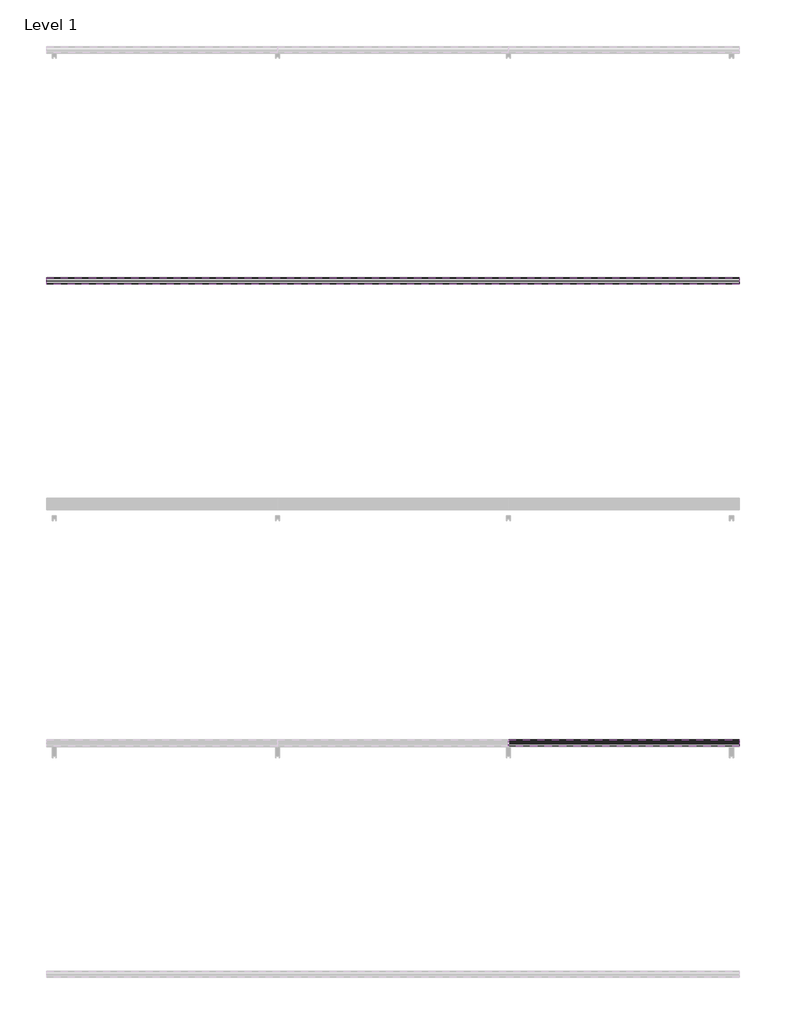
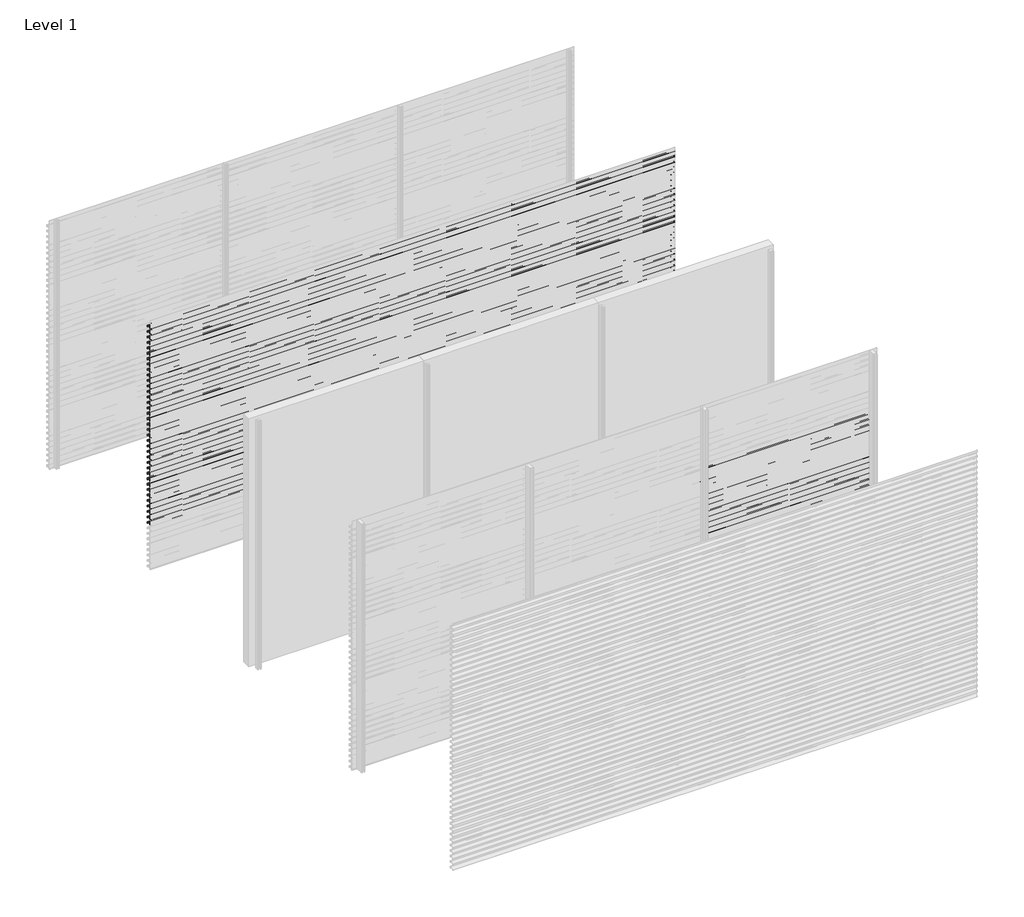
# One storey, part 20 of 27: 71 proxies.
"""IFC4 building model written with IfcOpenShell, lengths in millimetres."""

from ifc_helpers import new_model, si_unit, frame, origin, place, context, project, spatial, polyline, outline, extrude, element, save

model = new_model("IFC4")

# Units and contexts
model_context = context("Model", 3, world=origin())
ifc_project = project(units=[si_unit("LENGTHUNIT", "METRE", prefix="MILLI")], contexts=[model_context])

# Site, building, storey
site = spatial("IfcSite", under=ifc_project)
building = spatial("IfcBuilding", under=site)
storey = spatial("IfcBuildingStorey", under=building, Name="Level 1", Elevation=0.0)

# Proxies
placement = place(None, origin())
element("IfcBuildingElementProxy", 1, Name="Wall Sweeps", at=placement, inside=storey, context=model_context, shape_type="SweptSolid", body=[
    extrude(outline(polyline([(-13943.0, 2913.2), (-13943.0, 2893.5), (-13944.25, 2894.5866084), (-13944.25, 2912.4872415), (-13963.0322086, 2925.6010889), (-13995.1332975, 2893.5), (-13996.0525363, 2894.4192388), (-13964.1148087, 2926.3569665), (-13998.0, 2950.0158044), (-13998.0, 2970.0), (-13996.75, 2970.0), (-13996.75, 2950.7285629), (-13943.0, 2913.2)])), frame((0.0, 0.0, 0.0), z_axis=(1.0, 0.0, 0.0), x_axis=(0.0, 1.0, 0.0)), (0.0, 0.0, 1.0), 6000.0),
])
element("IfcBuildingElementProxy", 2, Name="Wall Sweeps", at=placement, inside=storey, context=model_context, shape_type="SweptSolid", body=[
    extrude(outline(polyline([(-13943.0, 2847.2), (-13943.0, 2827.5), (-13944.25, 2828.5866084), (-13944.25, 2846.4872415), (-13963.0322086, 2859.6010889), (-13995.1332975, 2827.5), (-13996.0525363, 2828.4192388), (-13964.1148087, 2860.3569665), (-13998.0, 2884.0158044), (-13998.0, 2904.0), (-13996.75, 2904.0), (-13996.75, 2884.7285629), (-13943.0, 2847.2)])), frame((0.0, 0.0, 0.0), z_axis=(1.0, 0.0, 0.0), x_axis=(0.0, 1.0, 0.0)), (0.0, 0.0, 1.0), 6000.0),
])
element("IfcBuildingElementProxy", 3, Name="Wall Sweeps", at=placement, inside=storey, context=model_context, shape_type="SweptSolid", body=[
    extrude(outline(polyline([(-13943.0, 2781.2), (-13943.0, 2761.5), (-13944.25, 2762.5866084), (-13944.25, 2780.4872415), (-13963.0322086, 2793.6010889), (-13995.1332975, 2761.5), (-13996.0525363, 2762.4192388), (-13964.1148087, 2794.3569665), (-13998.0, 2818.0158044), (-13998.0, 2838.0), (-13996.75, 2838.0), (-13996.75, 2818.7285629), (-13943.0, 2781.2)])), frame((0.0, 0.0, 0.0), z_axis=(1.0, 0.0, 0.0), x_axis=(0.0, 1.0, 0.0)), (0.0, 0.0, 1.0), 6000.0),
])
element("IfcBuildingElementProxy", 4, Name="Wall Sweeps", at=placement, inside=storey, context=model_context, shape_type="SweptSolid", body=[
    extrude(outline(polyline([(-13943.0, 2715.2), (-13943.0, 2695.5), (-13944.25, 2696.5866084), (-13944.25, 2714.4872415), (-13963.0322086, 2727.6010889), (-13995.1332975, 2695.5), (-13996.0525363, 2696.4192388), (-13964.1148087, 2728.3569665), (-13998.0, 2752.0158044), (-13998.0, 2772.0), (-13996.75, 2772.0), (-13996.75, 2752.7285629), (-13943.0, 2715.2)])), frame((0.0, 0.0, 0.0), z_axis=(1.0, 0.0, 0.0), x_axis=(0.0, 1.0, 0.0)), (0.0, 0.0, 1.0), 6000.0),
])
element("IfcBuildingElementProxy", 5, Name="Wall Sweeps", at=placement, inside=storey, context=model_context, shape_type="SweptSolid", body=[
    extrude(outline(polyline([(-13943.0, 2649.2), (-13943.0, 2629.5), (-13944.25, 2630.5866084), (-13944.25, 2648.4872415), (-13963.0322086, 2661.6010889), (-13995.1332975, 2629.5), (-13996.0525363, 2630.4192388), (-13964.1148087, 2662.3569665), (-13998.0, 2686.0158044), (-13998.0, 2706.0), (-13996.75, 2706.0), (-13996.75, 2686.7285629), (-13943.0, 2649.2)])), frame((0.0, 0.0, 0.0), z_axis=(1.0, 0.0, 0.0), x_axis=(0.0, 1.0, 0.0)), (0.0, 0.0, 1.0), 6000.0),
])
element("IfcBuildingElementProxy", 6, Name="Wall Sweeps", at=placement, inside=storey, context=model_context, shape_type="SweptSolid", body=[
    extrude(outline(polyline([(-13943.0, 2583.2), (-13943.0, 2563.5), (-13944.25, 2564.5866084), (-13944.25, 2582.4872415), (-13963.0322086, 2595.6010889), (-13995.1332975, 2563.5), (-13996.0525363, 2564.4192388), (-13964.1148087, 2596.3569665), (-13998.0, 2620.0158044), (-13998.0, 2640.0), (-13996.75, 2640.0), (-13996.75, 2620.7285629), (-13943.0, 2583.2)])), frame((0.0, 0.0, 0.0), z_axis=(1.0, 0.0, 0.0), x_axis=(0.0, 1.0, 0.0)), (0.0, 0.0, 1.0), 6000.0),
])
element("IfcBuildingElementProxy", 7, Name="Wall Sweeps", at=placement, inside=storey, context=model_context, shape_type="SweptSolid", body=[
    extrude(outline(polyline([(-13943.0, 2517.2), (-13943.0, 2497.5), (-13944.25, 2498.5866084), (-13944.25, 2516.4872415), (-13963.0322086, 2529.6010889), (-13995.1332975, 2497.5), (-13996.0525363, 2498.4192388), (-13964.1148087, 2530.3569665), (-13998.0, 2554.0158044), (-13998.0, 2574.0), (-13996.75, 2574.0), (-13996.75, 2554.7285629), (-13943.0, 2517.2)])), frame((0.0, 0.0, 0.0), z_axis=(1.0, 0.0, 0.0), x_axis=(0.0, 1.0, 0.0)), (0.0, 0.0, 1.0), 6000.0),
])
element("IfcBuildingElementProxy", 8, Name="Wall Sweeps", at=placement, inside=storey, context=model_context, shape_type="SweptSolid", body=[
    extrude(outline(polyline([(-13943.0, 2451.2), (-13943.0, 2431.5), (-13944.25, 2432.5866084), (-13944.25, 2450.4872415), (-13963.0322086, 2463.6010889), (-13995.1332975, 2431.5), (-13996.0525363, 2432.4192388), (-13964.1148087, 2464.3569665), (-13998.0, 2488.0158044), (-13998.0, 2508.0), (-13996.75, 2508.0), (-13996.75, 2488.7285629), (-13943.0, 2451.2)])), frame((0.0, 0.0, 0.0), z_axis=(1.0, 0.0, 0.0), x_axis=(0.0, 1.0, 0.0)), (0.0, 0.0, 1.0), 6000.0),
])
element("IfcBuildingElementProxy", 9, Name="Wall Sweeps", at=placement, inside=storey, context=model_context, shape_type="SweptSolid", body=[
    extrude(outline(polyline([(-13943.0, 2385.2), (-13943.0, 2365.5), (-13944.25, 2366.5866084), (-13944.25, 2384.4872415), (-13963.0322086, 2397.6010889), (-13995.1332975, 2365.5), (-13996.0525363, 2366.4192388), (-13964.1148087, 2398.3569665), (-13998.0, 2422.0158044), (-13998.0, 2442.0), (-13996.75, 2442.0), (-13996.75, 2422.7285629), (-13943.0, 2385.2)])), frame((0.0, 0.0, 0.0), z_axis=(1.0, 0.0, 0.0), x_axis=(0.0, 1.0, 0.0)), (0.0, 0.0, 1.0), 6000.0),
])
element("IfcBuildingElementProxy", 10, Name="Wall Sweeps", at=placement, inside=storey, context=model_context, shape_type="SweptSolid", body=[
    extrude(outline(polyline([(-13943.0, 2319.2), (-13943.0, 2299.5), (-13944.25, 2300.5866084), (-13944.25, 2318.4872415), (-13963.0322086, 2331.6010889), (-13995.1332975, 2299.5), (-13996.0525363, 2300.4192388), (-13964.1148087, 2332.3569665), (-13998.0, 2356.0158044), (-13998.0, 2376.0), (-13996.75, 2376.0), (-13996.75, 2356.7285629), (-13943.0, 2319.2)])), frame((0.0, 0.0, 0.0), z_axis=(1.0, 0.0, 0.0), x_axis=(0.0, 1.0, 0.0)), (0.0, 0.0, 1.0), 6000.0),
])
element("IfcBuildingElementProxy", 11, Name="Wall Sweeps", at=placement, inside=storey, context=model_context, shape_type="SweptSolid", body=[
    extrude(outline(polyline([(-13943.0, 2253.2), (-13943.0, 2233.5), (-13944.25, 2234.5866084), (-13944.25, 2252.4872415), (-13963.0322086, 2265.6010889), (-13995.1332975, 2233.5), (-13996.0525363, 2234.4192388), (-13964.1148087, 2266.3569665), (-13998.0, 2290.0158044), (-13998.0, 2310.0), (-13996.75, 2310.0), (-13996.75, 2290.7285629), (-13943.0, 2253.2)])), frame((0.0, 0.0, 0.0), z_axis=(1.0, 0.0, 0.0), x_axis=(0.0, 1.0, 0.0)), (0.0, 0.0, 1.0), 6000.0),
])
element("IfcBuildingElementProxy", 12, Name="Wall Sweeps", at=placement, inside=storey, context=model_context, shape_type="SweptSolid", body=[
    extrude(outline(polyline([(-13943.0, 2187.2), (-13943.0, 2167.5), (-13944.25, 2168.5866084), (-13944.25, 2186.4872415), (-13963.0322086, 2199.6010889), (-13995.1332975, 2167.5), (-13996.0525363, 2168.4192388), (-13964.1148087, 2200.3569665), (-13998.0, 2224.0158044), (-13998.0, 2244.0), (-13996.75, 2244.0), (-13996.75, 2224.7285629), (-13943.0, 2187.2)])), frame((0.0, 0.0, 0.0), z_axis=(1.0, 0.0, 0.0), x_axis=(0.0, 1.0, 0.0)), (0.0, 0.0, 1.0), 6000.0),
])
element("IfcBuildingElementProxy", 13, Name="Wall Sweeps", at=placement, inside=storey, context=model_context, shape_type="SweptSolid", body=[
    extrude(outline(polyline([(-13943.0, 2121.2), (-13943.0, 2101.5), (-13944.25, 2102.5866084), (-13944.25, 2120.4872415), (-13963.0322086, 2133.6010889), (-13995.1332975, 2101.5), (-13996.0525363, 2102.4192388), (-13964.1148087, 2134.3569665), (-13998.0, 2158.0158044), (-13998.0, 2178.0), (-13996.75, 2178.0), (-13996.75, 2158.7285629), (-13943.0, 2121.2)])), frame((0.0, 0.0, 0.0), z_axis=(1.0, 0.0, 0.0), x_axis=(0.0, 1.0, 0.0)), (0.0, 0.0, 1.0), 6000.0),
])
element("IfcBuildingElementProxy", 14, Name="Wall Sweeps", at=placement, inside=storey, context=model_context, shape_type="SweptSolid", body=[
    extrude(outline(polyline([(-13943.0, 2055.2), (-13943.0, 2035.5), (-13944.25, 2036.5866084), (-13944.25, 2054.4872415), (-13963.0322086, 2067.6010889), (-13995.1332975, 2035.5), (-13996.0525363, 2036.4192388), (-13964.1148087, 2068.3569665), (-13998.0, 2092.0158044), (-13998.0, 2112.0), (-13996.75, 2112.0), (-13996.75, 2092.7285629), (-13943.0, 2055.2)])), frame((0.0, 0.0, 0.0), z_axis=(1.0, 0.0, 0.0), x_axis=(0.0, 1.0, 0.0)), (0.0, 0.0, 1.0), 6000.0),
])
element("IfcBuildingElementProxy", 15, Name="Wall Sweeps", at=placement, inside=storey, context=model_context, shape_type="SweptSolid", body=[
    extrude(outline(polyline([(-13943.0, 1989.2), (-13943.0, 1969.5), (-13944.25, 1970.5866084), (-13944.25, 1988.4872415), (-13963.0322086, 2001.6010889), (-13995.1332975, 1969.5), (-13996.0525363, 1970.4192388), (-13964.1148087, 2002.3569665), (-13998.0, 2026.0158044), (-13998.0, 2046.0), (-13996.75, 2046.0), (-13996.75, 2026.7285629), (-13943.0, 1989.2)])), frame((0.0, 0.0, 0.0), z_axis=(1.0, 0.0, 0.0), x_axis=(0.0, 1.0, 0.0)), (0.0, 0.0, 1.0), 6000.0),
])
element("IfcBuildingElementProxy", 16, Name="Wall Sweeps", at=placement, inside=storey, context=model_context, shape_type="SweptSolid", body=[
    extrude(outline(polyline([(-13943.0, 1923.2), (-13943.0, 1903.5), (-13944.25, 1904.5866084), (-13944.25, 1922.4872415), (-13963.0322086, 1935.6010889), (-13995.1332975, 1903.5), (-13996.0525363, 1904.4192388), (-13964.1148087, 1936.3569665), (-13998.0, 1960.0158044), (-13998.0, 1980.0), (-13996.75, 1980.0), (-13996.75, 1960.7285629), (-13943.0, 1923.2)])), frame((0.0, 0.0, 0.0), z_axis=(1.0, 0.0, 0.0), x_axis=(0.0, 1.0, 0.0)), (0.0, 0.0, 1.0), 6000.0),
])
element("IfcBuildingElementProxy", 17, Name="Wall Sweeps", at=placement, inside=storey, context=model_context, shape_type="SweptSolid", body=[
    extrude(outline(polyline([(-13943.0, 1857.2), (-13943.0, 1837.5), (-13944.25, 1838.5866084), (-13944.25, 1856.4872415), (-13963.0322086, 1869.6010889), (-13995.1332975, 1837.5), (-13996.0525363, 1838.4192388), (-13964.1148087, 1870.3569665), (-13998.0, 1894.0158044), (-13998.0, 1914.0), (-13996.75, 1914.0), (-13996.75, 1894.7285629), (-13943.0, 1857.2)])), frame((0.0, 0.0, 0.0), z_axis=(1.0, 0.0, 0.0), x_axis=(0.0, 1.0, 0.0)), (0.0, 0.0, 1.0), 6000.0),
])
element("IfcBuildingElementProxy", 18, Name="Wall Sweeps", at=placement, inside=storey, context=model_context, shape_type="SweptSolid", body=[
    extrude(outline(polyline([(-13943.0, 1791.2), (-13943.0, 1771.5), (-13944.25, 1772.5866084), (-13944.25, 1790.4872415), (-13963.0322086, 1803.6010889), (-13995.1332975, 1771.5), (-13996.0525363, 1772.4192388), (-13964.1148087, 1804.3569665), (-13998.0, 1828.0158044), (-13998.0, 1848.0), (-13996.75, 1848.0), (-13996.75, 1828.7285629), (-13943.0, 1791.2)])), frame((0.0, 0.0, 0.0), z_axis=(1.0, 0.0, 0.0), x_axis=(0.0, 1.0, 0.0)), (0.0, 0.0, 1.0), 6000.0),
])
element("IfcBuildingElementProxy", 19, Name="Wall Sweeps", at=placement, inside=storey, context=model_context, shape_type="SweptSolid", body=[
    extrude(outline(polyline([(-13943.0, 1725.2), (-13943.0, 1705.5), (-13944.25, 1706.5866084), (-13944.25, 1724.4872415), (-13963.0322086, 1737.6010889), (-13995.1332975, 1705.5), (-13996.0525363, 1706.4192388), (-13964.1148087, 1738.3569665), (-13998.0, 1762.0158044), (-13998.0, 1782.0), (-13996.75, 1782.0), (-13996.75, 1762.7285629), (-13943.0, 1725.2)])), frame((0.0, 0.0, 0.0), z_axis=(1.0, 0.0, 0.0), x_axis=(0.0, 1.0, 0.0)), (0.0, 0.0, 1.0), 6000.0),
])
element("IfcBuildingElementProxy", 20, Name="Wall Sweeps", at=placement, inside=storey, context=model_context, shape_type="SweptSolid", body=[
    extrude(outline(polyline([(-13943.0, 1659.2), (-13943.0, 1639.5), (-13944.25, 1640.5866084), (-13944.25, 1658.4872415), (-13963.0322086, 1671.6010889), (-13995.1332975, 1639.5), (-13996.0525363, 1640.4192388), (-13964.1148087, 1672.3569665), (-13998.0, 1696.0158044), (-13998.0, 1716.0), (-13996.75, 1716.0), (-13996.75, 1696.7285629), (-13943.0, 1659.2)])), frame((0.0, 0.0, 0.0), z_axis=(1.0, 0.0, 0.0), x_axis=(0.0, 1.0, 0.0)), (0.0, 0.0, 1.0), 6000.0),
])
element("IfcBuildingElementProxy", 21, Name="Wall Sweeps", at=placement, inside=storey, context=model_context, shape_type="SweptSolid", body=[
    extrude(outline(polyline([(-13943.0, 1593.2), (-13943.0, 1573.5), (-13944.25, 1574.5866084), (-13944.25, 1592.4872415), (-13963.0322086, 1605.6010889), (-13995.1332975, 1573.5), (-13996.0525363, 1574.4192388), (-13964.1148087, 1606.3569665), (-13998.0, 1630.0158044), (-13998.0, 1650.0), (-13996.75, 1650.0), (-13996.75, 1630.7285629), (-13943.0, 1593.2)])), frame((0.0, 0.0, 0.0), z_axis=(1.0, 0.0, 0.0), x_axis=(0.0, 1.0, 0.0)), (0.0, 0.0, 1.0), 6000.0),
])
element("IfcBuildingElementProxy", 22, Name="Wall Sweeps", at=placement, inside=storey, context=model_context, shape_type="SweptSolid", body=[
    extrude(outline(polyline([(-13943.0, 1527.2), (-13943.0, 1507.5), (-13944.25, 1508.5866084), (-13944.25, 1526.4872415), (-13963.0322086, 1539.6010889), (-13995.1332975, 1507.5), (-13996.0525363, 1508.4192388), (-13964.1148087, 1540.3569665), (-13998.0, 1564.0158044), (-13998.0, 1584.0), (-13996.75, 1584.0), (-13996.75, 1564.7285629), (-13943.0, 1527.2)])), frame((0.0, 0.0, 0.0), z_axis=(1.0, 0.0, 0.0), x_axis=(0.0, 1.0, 0.0)), (0.0, 0.0, 1.0), 6000.0),
])
element("IfcBuildingElementProxy", 23, Name="Wall Sweeps", at=placement, inside=storey, context=model_context, shape_type="SweptSolid", body=[
    extrude(outline(polyline([(-13943.0, 1461.2), (-13943.0, 1441.5), (-13944.25, 1442.5866084), (-13944.25, 1460.4872415), (-13963.0322086, 1473.6010889), (-13995.1332975, 1441.5), (-13996.0525363, 1442.4192388), (-13964.1148087, 1474.3569665), (-13998.0, 1498.0158044), (-13998.0, 1518.0), (-13996.75, 1518.0), (-13996.75, 1498.7285629), (-13943.0, 1461.2)])), frame((0.0, 0.0, 0.0), z_axis=(1.0, 0.0, 0.0), x_axis=(0.0, 1.0, 0.0)), (0.0, 0.0, 1.0), 6000.0),
])
element("IfcBuildingElementProxy", 24, Name="Wall Sweeps", at=placement, inside=storey, context=model_context, shape_type="SweptSolid", body=[
    extrude(outline(polyline([(-13943.0, 1395.2), (-13943.0, 1375.5), (-13944.25, 1376.5866084), (-13944.25, 1394.4872415), (-13963.0322086, 1407.6010889), (-13995.1332975, 1375.5), (-13996.0525363, 1376.4192388), (-13964.1148087, 1408.3569665), (-13998.0, 1432.0158044), (-13998.0, 1452.0), (-13996.75, 1452.0), (-13996.75, 1432.7285629), (-13943.0, 1395.2)])), frame((0.0, 0.0, 0.0), z_axis=(1.0, 0.0, 0.0), x_axis=(0.0, 1.0, 0.0)), (0.0, 0.0, 1.0), 6000.0),
])
element("IfcBuildingElementProxy", 25, Name="Wall Sweeps", at=placement, inside=storey, context=model_context, shape_type="SweptSolid", body=[
    extrude(outline(polyline([(-13943.0, 1329.2), (-13943.0, 1309.5), (-13944.25, 1310.5866084), (-13944.25, 1328.4872415), (-13963.0322086, 1341.6010889), (-13995.1332975, 1309.5), (-13996.0525363, 1310.4192388), (-13964.1148087, 1342.3569665), (-13998.0, 1366.0158044), (-13998.0, 1386.0), (-13996.75, 1386.0), (-13996.75, 1366.7285629), (-13943.0, 1329.2)])), frame((0.0, 0.0, 0.0), z_axis=(1.0, 0.0, 0.0), x_axis=(0.0, 1.0, 0.0)), (0.0, 0.0, 1.0), 6000.0),
])
element("IfcBuildingElementProxy", 26, Name="Wall Sweeps", at=placement, inside=storey, context=model_context, shape_type="SweptSolid", body=[
    extrude(outline(polyline([(-13943.0, 1263.2), (-13943.0, 1243.5), (-13944.25, 1244.5866084), (-13944.25, 1262.4872415), (-13963.0322086, 1275.6010889), (-13995.1332975, 1243.5), (-13996.0525363, 1244.4192388), (-13964.1148087, 1276.3569665), (-13998.0, 1300.0158044), (-13998.0, 1320.0), (-13996.75, 1320.0), (-13996.75, 1300.7285629), (-13943.0, 1263.2)])), frame((0.0, 0.0, 0.0), z_axis=(1.0, 0.0, 0.0), x_axis=(0.0, 1.0, 0.0)), (0.0, 0.0, 1.0), 6000.0),
])
element("IfcBuildingElementProxy", 27, Name="Wall Sweeps", at=placement, inside=storey, context=model_context, shape_type="SweptSolid", body=[
    extrude(outline(polyline([(-13943.0, 1197.2), (-13943.0, 1177.5), (-13944.25, 1178.5866084), (-13944.25, 1196.4872415), (-13963.0322086, 1209.6010889), (-13995.1332975, 1177.5), (-13996.0525363, 1178.4192388), (-13964.1148087, 1210.3569665), (-13998.0, 1234.0158044), (-13998.0, 1254.0), (-13996.75, 1254.0), (-13996.75, 1234.7285629), (-13943.0, 1197.2)])), frame((0.0, 0.0, 0.0), z_axis=(1.0, 0.0, 0.0), x_axis=(0.0, 1.0, 0.0)), (0.0, 0.0, 1.0), 6000.0),
])
element("IfcBuildingElementProxy", 28, Name="Wall Sweeps", at=placement, inside=storey, context=model_context, shape_type="SweptSolid", body=[
    extrude(outline(polyline([(-13943.0, 1131.2), (-13943.0, 1111.5), (-13944.25, 1112.5866084), (-13944.25, 1130.4872415), (-13963.0322086, 1143.6010889), (-13995.1332975, 1111.5), (-13996.0525363, 1112.4192388), (-13964.1148087, 1144.3569665), (-13998.0, 1168.0158044), (-13998.0, 1188.0), (-13996.75, 1188.0), (-13996.75, 1168.7285629), (-13943.0, 1131.2)])), frame((0.0, 0.0, 0.0), z_axis=(1.0, 0.0, 0.0), x_axis=(0.0, 1.0, 0.0)), (0.0, 0.0, 1.0), 6000.0),
])
element("IfcBuildingElementProxy", 29, Name="Wall Sweeps", at=placement, inside=storey, context=model_context, shape_type="SweptSolid", body=[
    extrude(outline(polyline([(-13943.0, 1065.2), (-13943.0, 1045.5), (-13944.25, 1046.5866084), (-13944.25, 1064.4872415), (-13963.0322086, 1077.6010889), (-13995.1332975, 1045.5), (-13996.0525363, 1046.4192388), (-13964.1148087, 1078.3569665), (-13998.0, 1102.0158044), (-13998.0, 1122.0), (-13996.75, 1122.0), (-13996.75, 1102.7285629), (-13943.0, 1065.2)])), frame((0.0, 0.0, 0.0), z_axis=(1.0, 0.0, 0.0), x_axis=(0.0, 1.0, 0.0)), (0.0, 0.0, 1.0), 6000.0),
])
element("IfcBuildingElementProxy", 30, Name="Wall Sweeps", at=placement, inside=storey, context=model_context, shape_type="SweptSolid", body=[
    extrude(outline(polyline([(-13943.0, 999.2), (-13943.0, 979.5), (-13944.25, 980.5866084), (-13944.25, 998.4872415), (-13963.0322086, 1011.6010889), (-13995.1332975, 979.5), (-13996.0525363, 980.4192388), (-13964.1148087, 1012.3569665), (-13998.0, 1036.0158044), (-13998.0, 1056.0), (-13996.75, 1056.0), (-13996.75, 1036.7285629), (-13943.0, 999.2)])), frame((0.0, 0.0, 0.0), z_axis=(1.0, 0.0, 0.0), x_axis=(0.0, 1.0, 0.0)), (0.0, 0.0, 1.0), 6000.0),
])
element("IfcBuildingElementProxy", 31, Name="Wall Sweeps", at=placement, inside=storey, context=model_context, shape_type="SweptSolid", body=[
    extrude(outline(polyline([(-13943.0, 933.2), (-13943.0, 913.5), (-13944.25, 914.5866084), (-13944.25, 932.4872415), (-13963.0322086, 945.6010889), (-13995.1332975, 913.5), (-13996.0525363, 914.4192388), (-13964.1148087, 946.3569665), (-13998.0, 970.0158044), (-13998.0, 990.0), (-13996.75, 990.0), (-13996.75, 970.7285629), (-13943.0, 933.2)])), frame((0.0, 0.0, 0.0), z_axis=(1.0, 0.0, 0.0), x_axis=(0.0, 1.0, 0.0)), (0.0, 0.0, 1.0), 6000.0),
])
element("IfcBuildingElementProxy", 32, Name="Wall Sweeps", at=placement, inside=storey, context=model_context, shape_type="SweptSolid", body=[
    extrude(outline(polyline([(-13943.0, 867.2), (-13943.0, 847.5), (-13944.25, 848.5866084), (-13944.25, 866.4872415), (-13963.0322086, 879.6010889), (-13995.1332975, 847.5), (-13996.0525363, 848.4192388), (-13964.1148087, 880.3569665), (-13998.0, 904.0158044), (-13998.0, 924.0), (-13996.75, 924.0), (-13996.75, 904.7285629), (-13943.0, 867.2)])), frame((0.0, 0.0, 0.0), z_axis=(1.0, 0.0, 0.0), x_axis=(0.0, 1.0, 0.0)), (0.0, 0.0, 1.0), 6000.0),
])
element("IfcBuildingElementProxy", 33, Name="Wall Sweeps", at=placement, inside=storey, context=model_context, shape_type="SweptSolid", body=[
    extrude(outline(polyline([(-13943.0, 801.2), (-13943.0, 781.5), (-13944.25, 782.5866084), (-13944.25, 800.4872415), (-13963.0322086, 813.6010889), (-13995.1332975, 781.5), (-13996.0525363, 782.4192388), (-13964.1148087, 814.3569665), (-13998.0, 838.0158044), (-13998.0, 858.0), (-13996.75, 858.0), (-13996.75, 838.7285629), (-13943.0, 801.2)])), frame((0.0, 0.0, 0.0), z_axis=(1.0, 0.0, 0.0), x_axis=(0.0, 1.0, 0.0)), (0.0, 0.0, 1.0), 6000.0),
])
element("IfcBuildingElementProxy", 34, Name="Wall Sweeps", at=placement, inside=storey, context=model_context, shape_type="SweptSolid", body=[
    extrude(outline(polyline([(-13943.0, 735.2), (-13943.0, 715.5), (-13944.25, 716.5866084), (-13944.25, 734.4872415), (-13963.0322086, 747.6010889), (-13995.1332975, 715.5), (-13996.0525363, 716.4192388), (-13964.1148087, 748.3569665), (-13998.0, 772.0158044), (-13998.0, 792.0), (-13996.75, 792.0), (-13996.75, 772.7285629), (-13943.0, 735.2)])), frame((0.0, 0.0, 0.0), z_axis=(1.0, 0.0, 0.0), x_axis=(0.0, 1.0, 0.0)), (0.0, 0.0, 1.0), 6000.0),
])
element("IfcBuildingElementProxy", 35, Name="Wall Sweeps", at=placement, inside=storey, context=model_context, shape_type="SweptSolid", body=[
    extrude(outline(polyline([(-13943.0, 669.2), (-13943.0, 649.5), (-13944.25, 650.5866084), (-13944.25, 668.4872415), (-13963.0322086, 681.6010889), (-13995.1332975, 649.5), (-13996.0525363, 650.4192388), (-13964.1148087, 682.3569665), (-13998.0, 706.0158044), (-13998.0, 726.0), (-13996.75, 726.0), (-13996.75, 706.7285629), (-13943.0, 669.2)])), frame((0.0, 0.0, 0.0), z_axis=(1.0, 0.0, 0.0), x_axis=(0.0, 1.0, 0.0)), (0.0, 0.0, 1.0), 6000.0),
])
element("IfcBuildingElementProxy", 36, Name="Wall Sweeps", at=placement, inside=storey, context=model_context, shape_type="SweptSolid", body=[
    extrude(outline(polyline([(-13943.0, 603.2), (-13943.0, 583.5), (-13944.25, 584.5866084), (-13944.25, 602.4872415), (-13963.0322086, 615.6010889), (-13995.1332975, 583.5), (-13996.0525363, 584.4192388), (-13964.1148087, 616.3569665), (-13998.0, 640.0158044), (-13998.0, 660.0), (-13996.75, 660.0), (-13996.75, 640.7285629), (-13943.0, 603.2)])), frame((0.0, 0.0, 0.0), z_axis=(1.0, 0.0, 0.0), x_axis=(0.0, 1.0, 0.0)), (0.0, 0.0, 1.0), 6000.0),
])
element("IfcBuildingElementProxy", 37, Name="Wall Sweeps", at=placement, inside=storey, context=model_context, shape_type="SweptSolid", body=[
    extrude(outline(polyline([(-13943.0, 537.2), (-13943.0, 517.5), (-13944.25, 518.5866084), (-13944.25, 536.4872415), (-13963.0322086, 549.6010889), (-13995.1332975, 517.5), (-13996.0525363, 518.4192388), (-13964.1148087, 550.3569665), (-13998.0, 574.0158044), (-13998.0, 594.0), (-13996.75, 594.0), (-13996.75, 574.7285629), (-13943.0, 537.2)])), frame((0.0, 0.0, 0.0), z_axis=(1.0, 0.0, 0.0), x_axis=(0.0, 1.0, 0.0)), (0.0, 0.0, 1.0), 6000.0),
])
element("IfcBuildingElementProxy", 38, Name="Wall Sweeps", at=placement, inside=storey, context=model_context, shape_type="SweptSolid", body=[
    extrude(outline(polyline([(-17943.0, 2187.2), (-17943.0, 2167.5), (-17944.25, 2168.5866084), (-17944.25, 2186.4872415), (-17963.0322086, 2199.6010889), (-17995.1332975, 2167.5), (-17996.0525363, 2168.4192388), (-17964.1148087, 2200.3569665), (-17998.0, 2224.0158044), (-17998.0, 2244.0), (-17996.75, 2244.0), (-17996.75, 2224.7285629), (-17943.0, 2187.2)])), frame((4000.0, 0.0, 0.0), z_axis=(1.0, 0.0, 0.0), x_axis=(0.0, 1.0, 0.0)), (0.0, 0.0, 1.0), 2000.0),
])
element("IfcBuildingElementProxy", 39, Name="Wall Sweeps", at=placement, inside=storey, context=model_context, shape_type="SweptSolid", body=[
    extrude(outline(polyline([(-17943.0, 2121.2), (-17943.0, 2101.5), (-17944.25, 2102.5866084), (-17944.25, 2120.4872415), (-17963.0322086, 2133.6010889), (-17995.1332975, 2101.5), (-17996.0525363, 2102.4192388), (-17964.1148087, 2134.3569665), (-17998.0, 2158.0158044), (-17998.0, 2178.0), (-17996.75, 2178.0), (-17996.75, 2158.7285629), (-17943.0, 2121.2)])), frame((4000.0, 0.0, 0.0), z_axis=(1.0, 0.0, 0.0), x_axis=(0.0, 1.0, 0.0)), (0.0, 0.0, 1.0), 2000.0),
])
element("IfcBuildingElementProxy", 40, Name="Wall Sweeps", at=placement, inside=storey, context=model_context, shape_type="SweptSolid", body=[
    extrude(outline(polyline([(-17943.0, 2055.2), (-17943.0, 2035.5), (-17944.25, 2036.5866084), (-17944.25, 2054.4872415), (-17963.0322086, 2067.6010889), (-17995.1332975, 2035.5), (-17996.0525363, 2036.4192388), (-17964.1148087, 2068.3569665), (-17998.0, 2092.0158044), (-17998.0, 2112.0), (-17996.75, 2112.0), (-17996.75, 2092.7285629), (-17943.0, 2055.2)])), frame((4000.0, 0.0, 0.0), z_axis=(1.0, 0.0, 0.0), x_axis=(0.0, 1.0, 0.0)), (0.0, 0.0, 1.0), 2000.0),
])
element("IfcBuildingElementProxy", 41, Name="Wall Sweeps", at=placement, inside=storey, context=model_context, shape_type="SweptSolid", body=[
    extrude(outline(polyline([(-17943.0, 1989.2), (-17943.0, 1969.5), (-17944.25, 1970.5866084), (-17944.25, 1988.4872415), (-17963.0322086, 2001.6010889), (-17995.1332975, 1969.5), (-17996.0525363, 1970.4192388), (-17964.1148087, 2002.3569665), (-17998.0, 2026.0158044), (-17998.0, 2046.0), (-17996.75, 2046.0), (-17996.75, 2026.7285629), (-17943.0, 1989.2)])), frame((4000.0, 0.0, 0.0), z_axis=(1.0, 0.0, 0.0), x_axis=(0.0, 1.0, 0.0)), (0.0, 0.0, 1.0), 2000.0),
])
element("IfcBuildingElementProxy", 42, Name="Wall Sweeps", at=placement, inside=storey, context=model_context, shape_type="SweptSolid", body=[
    extrude(outline(polyline([(-17943.0, 1923.2), (-17943.0, 1903.5), (-17944.25, 1904.5866084), (-17944.25, 1922.4872415), (-17963.0322086, 1935.6010889), (-17995.1332975, 1903.5), (-17996.0525363, 1904.4192388), (-17964.1148087, 1936.3569665), (-17998.0, 1960.0158044), (-17998.0, 1980.0), (-17996.75, 1980.0), (-17996.75, 1960.7285629), (-17943.0, 1923.2)])), frame((4000.0, 0.0, 0.0), z_axis=(1.0, 0.0, 0.0), x_axis=(0.0, 1.0, 0.0)), (0.0, 0.0, 1.0), 2000.0),
])
element("IfcBuildingElementProxy", 43, Name="Wall Sweeps", at=placement, inside=storey, context=model_context, shape_type="SweptSolid", body=[
    extrude(outline(polyline([(-17943.0, 1857.2), (-17943.0, 1837.5), (-17944.25, 1838.5866084), (-17944.25, 1856.4872415), (-17963.0322086, 1869.6010889), (-17995.1332975, 1837.5), (-17996.0525363, 1838.4192388), (-17964.1148087, 1870.3569665), (-17998.0, 1894.0158044), (-17998.0, 1914.0), (-17996.75, 1914.0), (-17996.75, 1894.7285629), (-17943.0, 1857.2)])), frame((4000.0, 0.0, 0.0), z_axis=(1.0, 0.0, 0.0), x_axis=(0.0, 1.0, 0.0)), (0.0, 0.0, 1.0), 2000.0),
])
element("IfcBuildingElementProxy", 44, Name="Wall Sweeps", at=placement, inside=storey, context=model_context, shape_type="SweptSolid", body=[
    extrude(outline(polyline([(-17943.0, 1791.2), (-17943.0, 1771.5), (-17944.25, 1772.5866084), (-17944.25, 1790.4872415), (-17963.0322086, 1803.6010889), (-17995.1332975, 1771.5), (-17996.0525363, 1772.4192388), (-17964.1148087, 1804.3569665), (-17998.0, 1828.0158044), (-17998.0, 1848.0), (-17996.75, 1848.0), (-17996.75, 1828.7285629), (-17943.0, 1791.2)])), frame((4000.0, 0.0, 0.0), z_axis=(1.0, 0.0, 0.0), x_axis=(0.0, 1.0, 0.0)), (0.0, 0.0, 1.0), 2000.0),
])
element("IfcBuildingElementProxy", 45, Name="Wall Sweeps", at=placement, inside=storey, context=model_context, shape_type="SweptSolid", body=[
    extrude(outline(polyline([(-17943.0, 1725.2), (-17943.0, 1705.5), (-17944.25, 1706.5866084), (-17944.25, 1724.4872415), (-17963.0322086, 1737.6010889), (-17995.1332975, 1705.5), (-17996.0525363, 1706.4192388), (-17964.1148087, 1738.3569665), (-17998.0, 1762.0158044), (-17998.0, 1782.0), (-17996.75, 1782.0), (-17996.75, 1762.7285629), (-17943.0, 1725.2)])), frame((4000.0, 0.0, 0.0), z_axis=(1.0, 0.0, 0.0), x_axis=(0.0, 1.0, 0.0)), (0.0, 0.0, 1.0), 2000.0),
])
element("IfcBuildingElementProxy", 46, Name="Wall Sweeps", at=placement, inside=storey, context=model_context, shape_type="SweptSolid", body=[
    extrude(outline(polyline([(-17943.0, 1659.2), (-17943.0, 1639.5), (-17944.25, 1640.5866084), (-17944.25, 1658.4872415), (-17963.0322086, 1671.6010889), (-17995.1332975, 1639.5), (-17996.0525363, 1640.4192388), (-17964.1148087, 1672.3569665), (-17998.0, 1696.0158044), (-17998.0, 1716.0), (-17996.75, 1716.0), (-17996.75, 1696.7285629), (-17943.0, 1659.2)])), frame((4000.0, 0.0, 0.0), z_axis=(1.0, 0.0, 0.0), x_axis=(0.0, 1.0, 0.0)), (0.0, 0.0, 1.0), 2000.0),
])
element("IfcBuildingElementProxy", 47, Name="Wall Sweeps", at=placement, inside=storey, context=model_context, shape_type="SweptSolid", body=[
    extrude(outline(polyline([(-17943.0, 1593.2), (-17943.0, 1573.5), (-17944.25, 1574.5866084), (-17944.25, 1592.4872415), (-17963.0322086, 1605.6010889), (-17995.1332975, 1573.5), (-17996.0525363, 1574.4192388), (-17964.1148087, 1606.3569665), (-17998.0, 1630.0158044), (-17998.0, 1650.0), (-17996.75, 1650.0), (-17996.75, 1630.7285629), (-17943.0, 1593.2)])), frame((4000.0, 0.0, 0.0), z_axis=(1.0, 0.0, 0.0), x_axis=(0.0, 1.0, 0.0)), (0.0, 0.0, 1.0), 2000.0),
])
element("IfcBuildingElementProxy", 48, Name="Wall Sweeps", at=placement, inside=storey, context=model_context, shape_type="SweptSolid", body=[
    extrude(outline(polyline([(-17943.0, 1527.2), (-17943.0, 1507.5), (-17944.25, 1508.5866084), (-17944.25, 1526.4872415), (-17963.0322086, 1539.6010889), (-17995.1332975, 1507.5), (-17996.0525363, 1508.4192388), (-17964.1148087, 1540.3569665), (-17998.0, 1564.0158044), (-17998.0, 1584.0), (-17996.75, 1584.0), (-17996.75, 1564.7285629), (-17943.0, 1527.2)])), frame((4000.0, 0.0, 0.0), z_axis=(1.0, 0.0, 0.0), x_axis=(0.0, 1.0, 0.0)), (0.0, 0.0, 1.0), 2000.0),
])
element("IfcBuildingElementProxy", 49, Name="Wall Sweeps", at=placement, inside=storey, context=model_context, shape_type="SweptSolid", body=[
    extrude(outline(polyline([(-17943.0, 1461.2), (-17943.0, 1441.5), (-17944.25, 1442.5866084), (-17944.25, 1460.4872415), (-17963.0322086, 1473.6010889), (-17995.1332975, 1441.5), (-17996.0525363, 1442.4192388), (-17964.1148087, 1474.3569665), (-17998.0, 1498.0158044), (-17998.0, 1518.0), (-17996.75, 1518.0), (-17996.75, 1498.7285629), (-17943.0, 1461.2)])), frame((4000.0, 0.0, 0.0), z_axis=(1.0, 0.0, 0.0), x_axis=(0.0, 1.0, 0.0)), (0.0, 0.0, 1.0), 2000.0),
])
element("IfcBuildingElementProxy", 50, Name="Wall Sweeps", at=placement, inside=storey, context=model_context, shape_type="SweptSolid", body=[
    extrude(outline(polyline([(-17943.0, 1395.2), (-17943.0, 1375.5), (-17944.25, 1376.5866084), (-17944.25, 1394.4872415), (-17963.0322086, 1407.6010889), (-17995.1332975, 1375.5), (-17996.0525363, 1376.4192388), (-17964.1148087, 1408.3569665), (-17998.0, 1432.0158044), (-17998.0, 1452.0), (-17996.75, 1452.0), (-17996.75, 1432.7285629), (-17943.0, 1395.2)])), frame((4000.0, 0.0, 0.0), z_axis=(1.0, 0.0, 0.0), x_axis=(0.0, 1.0, 0.0)), (0.0, 0.0, 1.0), 2000.0),
])
element("IfcBuildingElementProxy", 51, Name="Wall Sweeps", at=placement, inside=storey, context=model_context, shape_type="SweptSolid", body=[
    extrude(outline(polyline([(-17943.0, 1329.2), (-17943.0, 1309.5), (-17944.25, 1310.5866084), (-17944.25, 1328.4872415), (-17963.0322086, 1341.6010889), (-17995.1332975, 1309.5), (-17996.0525363, 1310.4192388), (-17964.1148087, 1342.3569665), (-17998.0, 1366.0158044), (-17998.0, 1386.0), (-17996.75, 1386.0), (-17996.75, 1366.7285629), (-17943.0, 1329.2)])), frame((4000.0, 0.0, 0.0), z_axis=(1.0, 0.0, 0.0), x_axis=(0.0, 1.0, 0.0)), (0.0, 0.0, 1.0), 2000.0),
])
element("IfcBuildingElementProxy", 52, Name="Wall Sweeps", at=placement, inside=storey, context=model_context, shape_type="SweptSolid", body=[
    extrude(outline(polyline([(-17943.0, 1263.2), (-17943.0, 1243.5), (-17944.25, 1244.5866084), (-17944.25, 1262.4872415), (-17963.0322086, 1275.6010889), (-17995.1332975, 1243.5), (-17996.0525363, 1244.4192388), (-17964.1148087, 1276.3569665), (-17998.0, 1300.0158044), (-17998.0, 1320.0), (-17996.75, 1320.0), (-17996.75, 1300.7285629), (-17943.0, 1263.2)])), frame((4000.0, 0.0, 0.0), z_axis=(1.0, 0.0, 0.0), x_axis=(0.0, 1.0, 0.0)), (0.0, 0.0, 1.0), 2000.0),
])
element("IfcBuildingElementProxy", 53, Name="Wall Sweeps", at=placement, inside=storey, context=model_context, shape_type="SweptSolid", body=[
    extrude(outline(polyline([(-17943.0, 1197.2), (-17943.0, 1177.5), (-17944.25, 1178.5866084), (-17944.25, 1196.4872415), (-17963.0322086, 1209.6010889), (-17995.1332975, 1177.5), (-17996.0525363, 1178.4192388), (-17964.1148087, 1210.3569665), (-17998.0, 1234.0158044), (-17998.0, 1254.0), (-17996.75, 1254.0), (-17996.75, 1234.7285629), (-17943.0, 1197.2)])), frame((4000.0, 0.0, 0.0), z_axis=(1.0, 0.0, 0.0), x_axis=(0.0, 1.0, 0.0)), (0.0, 0.0, 1.0), 2000.0),
])
element("IfcBuildingElementProxy", 54, Name="Wall Sweeps", at=placement, inside=storey, context=model_context, shape_type="SweptSolid", body=[
    extrude(outline(polyline([(-17943.0, 1131.2), (-17943.0, 1111.5), (-17944.25, 1112.5866084), (-17944.25, 1130.4872415), (-17963.0322086, 1143.6010889), (-17995.1332975, 1111.5), (-17996.0525363, 1112.4192388), (-17964.1148087, 1144.3569665), (-17998.0, 1168.0158044), (-17998.0, 1188.0), (-17996.75, 1188.0), (-17996.75, 1168.7285629), (-17943.0, 1131.2)])), frame((4000.0, 0.0, 0.0), z_axis=(1.0, 0.0, 0.0), x_axis=(0.0, 1.0, 0.0)), (0.0, 0.0, 1.0), 2000.0),
])
element("IfcBuildingElementProxy", 55, Name="Wall Sweeps", at=placement, inside=storey, context=model_context, shape_type="SweptSolid", body=[
    extrude(outline(polyline([(-17943.0, 1065.2), (-17943.0, 1045.5), (-17944.25, 1046.5866084), (-17944.25, 1064.4872415), (-17963.0322086, 1077.6010889), (-17995.1332975, 1045.5), (-17996.0525363, 1046.4192388), (-17964.1148087, 1078.3569665), (-17998.0, 1102.0158044), (-17998.0, 1122.0), (-17996.75, 1122.0), (-17996.75, 1102.7285629), (-17943.0, 1065.2)])), frame((4000.0, 0.0, 0.0), z_axis=(1.0, 0.0, 0.0), x_axis=(0.0, 1.0, 0.0)), (0.0, 0.0, 1.0), 2000.0),
])
element("IfcBuildingElementProxy", 56, Name="Wall Sweeps", at=placement, inside=storey, context=model_context, shape_type="SweptSolid", body=[
    extrude(outline(polyline([(-17943.0, 999.2), (-17943.0, 979.5), (-17944.25, 980.5866084), (-17944.25, 998.4872415), (-17963.0322086, 1011.6010889), (-17995.1332975, 979.5), (-17996.0525363, 980.4192388), (-17964.1148087, 1012.3569665), (-17998.0, 1036.0158044), (-17998.0, 1056.0), (-17996.75, 1056.0), (-17996.75, 1036.7285629), (-17943.0, 999.2)])), frame((4000.0, 0.0, 0.0), z_axis=(1.0, 0.0, 0.0), x_axis=(0.0, 1.0, 0.0)), (0.0, 0.0, 1.0), 2000.0),
])
element("IfcBuildingElementProxy", 57, Name="Wall Sweeps", at=placement, inside=storey, context=model_context, shape_type="SweptSolid", body=[
    extrude(outline(polyline([(-17943.0, 933.2), (-17943.0, 913.5), (-17944.25, 914.5866084), (-17944.25, 932.4872415), (-17963.0322086, 945.6010889), (-17995.1332975, 913.5), (-17996.0525363, 914.4192388), (-17964.1148087, 946.3569665), (-17998.0, 970.0158044), (-17998.0, 990.0), (-17996.75, 990.0), (-17996.75, 970.7285629), (-17943.0, 933.2)])), frame((4000.0, 0.0, 0.0), z_axis=(1.0, 0.0, 0.0), x_axis=(0.0, 1.0, 0.0)), (0.0, 0.0, 1.0), 2000.0),
])
element("IfcBuildingElementProxy", 58, Name="Wall Sweeps", at=placement, inside=storey, context=model_context, shape_type="SweptSolid", body=[
    extrude(outline(polyline([(-17943.0, 867.2), (-17943.0, 847.5), (-17944.25, 848.5866084), (-17944.25, 866.4872415), (-17963.0322086, 879.6010889), (-17995.1332975, 847.5), (-17996.0525363, 848.4192388), (-17964.1148087, 880.3569665), (-17998.0, 904.0158044), (-17998.0, 924.0), (-17996.75, 924.0), (-17996.75, 904.7285629), (-17943.0, 867.2)])), frame((4000.0, 0.0, 0.0), z_axis=(1.0, 0.0, 0.0), x_axis=(0.0, 1.0, 0.0)), (0.0, 0.0, 1.0), 2000.0),
])
element("IfcBuildingElementProxy", 59, Name="Wall Sweeps", at=placement, inside=storey, context=model_context, shape_type="SweptSolid", body=[
    extrude(outline(polyline([(-17943.0, 801.2), (-17943.0, 781.5), (-17944.25, 782.5866084), (-17944.25, 800.4872415), (-17963.0322086, 813.6010889), (-17995.1332975, 781.5), (-17996.0525363, 782.4192388), (-17964.1148087, 814.3569665), (-17998.0, 838.0158044), (-17998.0, 858.0), (-17996.75, 858.0), (-17996.75, 838.7285629), (-17943.0, 801.2)])), frame((4000.0, 0.0, 0.0), z_axis=(1.0, 0.0, 0.0), x_axis=(0.0, 1.0, 0.0)), (0.0, 0.0, 1.0), 2000.0),
])
element("IfcBuildingElementProxy", 60, Name="Wall Sweeps", at=placement, inside=storey, context=model_context, shape_type="SweptSolid", body=[
    extrude(outline(polyline([(-17943.0, 735.2), (-17943.0, 715.5), (-17944.25, 716.5866084), (-17944.25, 734.4872415), (-17963.0322086, 747.6010889), (-17995.1332975, 715.5), (-17996.0525363, 716.4192388), (-17964.1148087, 748.3569665), (-17998.0, 772.0158044), (-17998.0, 792.0), (-17996.75, 792.0), (-17996.75, 772.7285629), (-17943.0, 735.2)])), frame((4000.0, 0.0, 0.0), z_axis=(1.0, 0.0, 0.0), x_axis=(0.0, 1.0, 0.0)), (0.0, 0.0, 1.0), 2000.0),
])
element("IfcBuildingElementProxy", 61, Name="Wall Sweeps", at=placement, inside=storey, context=model_context, shape_type="SweptSolid", body=[
    extrude(outline(polyline([(-17943.0, 669.2), (-17943.0, 649.5), (-17944.25, 650.5866084), (-17944.25, 668.4872415), (-17963.0322086, 681.6010889), (-17995.1332975, 649.5), (-17996.0525363, 650.4192388), (-17964.1148087, 682.3569665), (-17998.0, 706.0158044), (-17998.0, 726.0), (-17996.75, 726.0), (-17996.75, 706.7285629), (-17943.0, 669.2)])), frame((4000.0, 0.0, 0.0), z_axis=(1.0, 0.0, 0.0), x_axis=(0.0, 1.0, 0.0)), (0.0, 0.0, 1.0), 2000.0),
])
element("IfcBuildingElementProxy", 62, Name="Wall Sweeps", at=placement, inside=storey, context=model_context, shape_type="SweptSolid", body=[
    extrude(outline(polyline([(-17943.0, 603.2), (-17943.0, 583.5), (-17944.25, 584.5866084), (-17944.25, 602.4872415), (-17963.0322086, 615.6010889), (-17995.1332975, 583.5), (-17996.0525363, 584.4192388), (-17964.1148087, 616.3569665), (-17998.0, 640.0158044), (-17998.0, 660.0), (-17996.75, 660.0), (-17996.75, 640.7285629), (-17943.0, 603.2)])), frame((4000.0, 0.0, 0.0), z_axis=(1.0, 0.0, 0.0), x_axis=(0.0, 1.0, 0.0)), (0.0, 0.0, 1.0), 2000.0),
])
element("IfcBuildingElementProxy", 63, Name="Wall Sweeps", at=placement, inside=storey, context=model_context, shape_type="SweptSolid", body=[
    extrude(outline(polyline([(-17943.0, 537.2), (-17943.0, 517.5), (-17944.25, 518.5866084), (-17944.25, 536.4872415), (-17963.0322086, 549.6010889), (-17995.1332975, 517.5), (-17996.0525363, 518.4192388), (-17964.1148087, 550.3569665), (-17998.0, 574.0158044), (-17998.0, 594.0), (-17996.75, 594.0), (-17996.75, 574.7285629), (-17943.0, 537.2)])), frame((4000.0, 0.0, 0.0), z_axis=(1.0, 0.0, 0.0), x_axis=(0.0, 1.0, 0.0)), (0.0, 0.0, 1.0), 2000.0),
])
element("IfcBuildingElementProxy", 64, Name="Wall Sweeps", at=placement, inside=storey, context=model_context, shape_type="SweptSolid", body=[
    extrude(outline(polyline([(-17943.0, 471.2), (-17943.0, 451.5), (-17944.25, 452.5866084), (-17944.25, 470.4872415), (-17963.0322086, 483.6010889), (-17995.1332975, 451.5), (-17996.0525363, 452.4192388), (-17964.1148087, 484.3569665), (-17998.0, 508.0158044), (-17998.0, 528.0), (-17996.75, 528.0), (-17996.75, 508.7285629), (-17943.0, 471.2)])), frame((4000.0, 0.0, 0.0), z_axis=(1.0, 0.0, 0.0), x_axis=(0.0, 1.0, 0.0)), (0.0, 0.0, 1.0), 2000.0),
])
element("IfcBuildingElementProxy", 65, Name="Wall Sweeps", at=placement, inside=storey, context=model_context, shape_type="SweptSolid", body=[
    extrude(outline(polyline([(-17943.0, 405.2), (-17943.0, 385.5), (-17944.25, 386.5866084), (-17944.25, 404.4872415), (-17963.0322086, 417.6010889), (-17995.1332975, 385.5), (-17996.0525363, 386.4192388), (-17964.1148087, 418.3569665), (-17998.0, 442.0158044), (-17998.0, 462.0), (-17996.75, 462.0), (-17996.75, 442.7285629), (-17943.0, 405.2)])), frame((4000.0, 0.0, 0.0), z_axis=(1.0, 0.0, 0.0), x_axis=(0.0, 1.0, 0.0)), (0.0, 0.0, 1.0), 2000.0),
])
element("IfcBuildingElementProxy", 66, Name="Wall Sweeps", at=placement, inside=storey, context=model_context, shape_type="SweptSolid", body=[
    extrude(outline(polyline([(-17943.0, 339.2), (-17943.0, 319.5), (-17944.25, 320.5866084), (-17944.25, 338.4872415), (-17963.0322086, 351.6010889), (-17995.1332975, 319.5), (-17996.0525363, 320.4192388), (-17964.1148087, 352.3569665), (-17998.0, 376.0158044), (-17998.0, 396.0), (-17996.75, 396.0), (-17996.75, 376.7285629), (-17943.0, 339.2)])), frame((4000.0, 0.0, 0.0), z_axis=(1.0, 0.0, 0.0), x_axis=(0.0, 1.0, 0.0)), (0.0, 0.0, 1.0), 2000.0),
])
element("IfcBuildingElementProxy", 67, Name="Wall Sweeps", at=placement, inside=storey, context=model_context, shape_type="SweptSolid", body=[
    extrude(outline(polyline([(-17943.0, 273.2), (-17943.0, 253.5), (-17944.25, 254.5866084), (-17944.25, 272.4872415), (-17963.0322086, 285.6010889), (-17995.1332975, 253.5), (-17996.0525363, 254.4192388), (-17964.1148087, 286.3569665), (-17998.0, 310.0158044), (-17998.0, 330.0), (-17996.75, 330.0), (-17996.75, 310.7285629), (-17943.0, 273.2)])), frame((4000.0, 0.0, 0.0), z_axis=(1.0, 0.0, 0.0), x_axis=(0.0, 1.0, 0.0)), (0.0, 0.0, 1.0), 2000.0),
])
element("IfcBuildingElementProxy", 68, Name="Wall Sweeps", at=placement, inside=storey, context=model_context, shape_type="SweptSolid", body=[
    extrude(outline(polyline([(-17943.0, 207.2), (-17943.0, 187.5), (-17944.25, 188.5866084), (-17944.25, 206.4872415), (-17963.0322086, 219.6010889), (-17995.1332975, 187.5), (-17996.0525363, 188.4192388), (-17964.1148087, 220.3569665), (-17998.0, 244.0158044), (-17998.0, 264.0), (-17996.75, 264.0), (-17996.75, 244.7285629), (-17943.0, 207.2)])), frame((4000.0, 0.0, 0.0), z_axis=(1.0, 0.0, 0.0), x_axis=(0.0, 1.0, 0.0)), (0.0, 0.0, 1.0), 2000.0),
])
element("IfcBuildingElementProxy", 69, Name="Wall Sweeps", at=placement, inside=storey, context=model_context, shape_type="SweptSolid", body=[
    extrude(outline(polyline([(-17943.0, 141.2), (-17943.0, 121.5), (-17944.25, 122.5866084), (-17944.25, 140.4872415), (-17963.0322086, 153.6010889), (-17995.1332975, 121.5), (-17996.0525363, 122.4192388), (-17964.1148087, 154.3569665), (-17998.0, 178.0158044), (-17998.0, 198.0), (-17996.75, 198.0), (-17996.75, 178.7285629), (-17943.0, 141.2)])), frame((4000.0, 0.0, 0.0), z_axis=(1.0, 0.0, 0.0), x_axis=(0.0, 1.0, 0.0)), (0.0, 0.0, 1.0), 2000.0),
])
element("IfcBuildingElementProxy", 70, Name="Wall Sweeps", at=placement, inside=storey, context=model_context, shape_type="SweptSolid", body=[
    extrude(outline(polyline([(-17943.0, 75.2), (-17943.0, 55.5), (-17944.25, 56.5866084), (-17944.25, 74.4872415), (-17963.0322086, 87.6010889), (-17995.1332975, 55.5), (-17996.0525363, 56.4192388), (-17964.1148087, 88.3569665), (-17998.0, 112.0158044), (-17998.0, 132.0), (-17996.75, 132.0), (-17996.75, 112.7285629), (-17943.0, 75.2)])), frame((4000.0, 0.0, 0.0), z_axis=(1.0, 0.0, 0.0), x_axis=(0.0, 1.0, 0.0)), (0.0, 0.0, 1.0), 2000.0),
])
element("IfcBuildingElementProxy", 71, Name="Wall Sweeps", at=placement, inside=storey, context=model_context, shape_type="SweptSolid", body=[
    extrude(outline(polyline([(-17943.0, 9.2), (-17943.0, -10.5), (-17944.25, -9.4133916), (-17944.25, 8.4872415), (-17963.0322086, 21.6010889), (-17995.1332975, -10.5), (-17996.0525363, -9.5807612), (-17964.1148087, 22.3569665), (-17998.0, 46.0158044), (-17998.0, 66.0), (-17996.75, 66.0), (-17996.75, 46.7285629), (-17943.0, 9.2)])), frame((4000.0, 0.0, 0.0), z_axis=(1.0, 0.0, 0.0), x_axis=(0.0, 1.0, 0.0)), (0.0, 0.0, 1.0), 2000.0),
])

save(model, "model.ifc")
